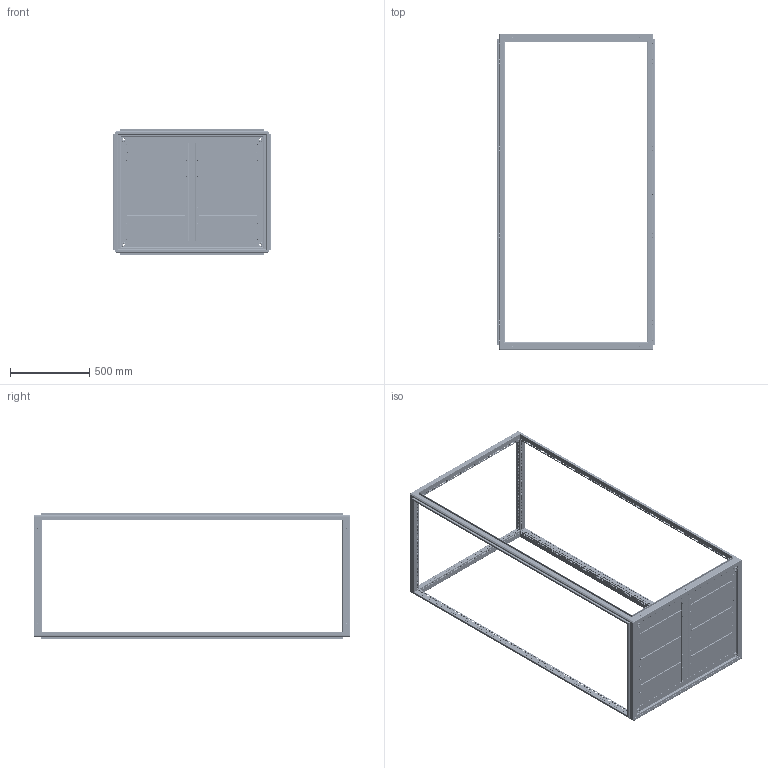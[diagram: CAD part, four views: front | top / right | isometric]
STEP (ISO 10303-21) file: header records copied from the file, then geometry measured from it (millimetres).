
FILE_DESCRIPTION(('STEP AP242'), '1');
FILE_NAME('ÊÑÊ.PRO.S.200.100.80 Êàðêàñ_ñåêöèîíèðîâàíèå', '', ('UNSPECIFIED'), ('UNSPECIFIED'), 'C3D Converter', 'C3D Toolkit', '');
FILE_SCHEMA(('AP242_MANAGED_MODEL_BASED_3D_ENGINEERING_MIM_LF { 1 0 10303 442 1 1 4 }'));
Length unit declared in the file: millimetre
Products named in the file (15): КСК.PRO.S.200.100.80; КСК.PRO.S.100.80; КСК.PRO.200; КСК.PRO.100.80; КСК.PRO.S.200; 2007.100.75; 2007.100.175; 2008.100.200; 2006.80
Assembly tree (47 placements, depth 2):
  КСК.PRO.S.200.100.80
    КСК.PRO.S.100.80
    КСК.PRO.200
    КСК.PRO.100.80
    КСК.PRO.200
    КСК.PRO.S.200
    КСК.PRO.S.200
    2007.100.75
    2007.100.175
    2007.100.75
    2007.100.175
    2008.100.200  x2
    2008.100.200  x2
    (unnamed)  x32
    2006.80
Bounding box: 997 x 1997 x 797 mm (x, y, z)
Volume: 4430345.9 mm3; surface area: 5995347.5 mm2
Topology: 47 solids, 47 shells, 10657 faces, 29781 edges, 19447 vertices
Faces by surface type: plane 7411, cylinder 2432, cone 518, bspline 192, torus 72, sphere 32
Full cylindrical faces by diameter (mm): 3.242 x56, 4.134 x170, 4.5 x1532, 4.8 x32, 6 x56, 6.5 x4, 7 x170, 10.106 x4, 13.835 x4, 14 x4, 21.545 x4
Entity records: 347353 total; most frequent: CARTESIAN_POINT 55870, ORIENTED_EDGE 50598, DIRECTION 49324, EDGE_CURVE 25299, LINE 20434, VECTOR 20434, EDGE_LOOP 18428, VERTEX_POINT 18061
